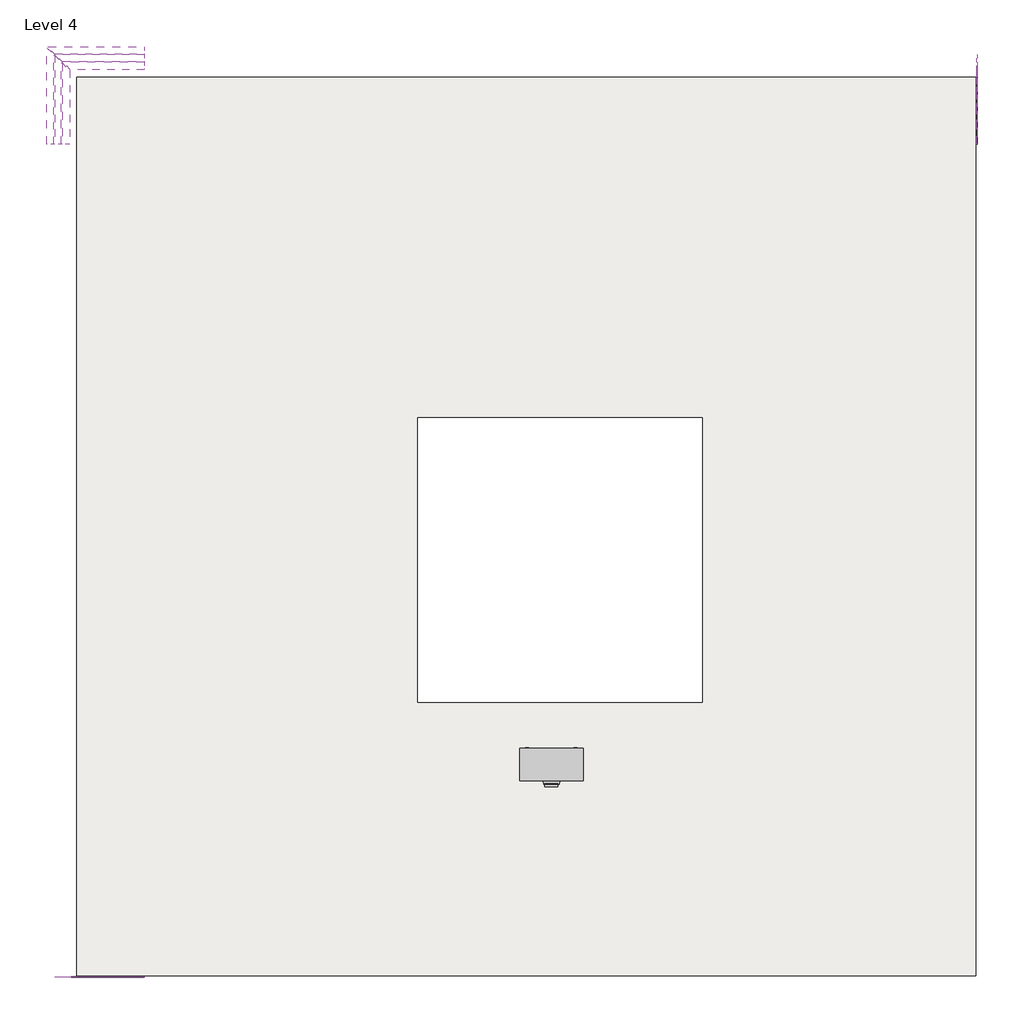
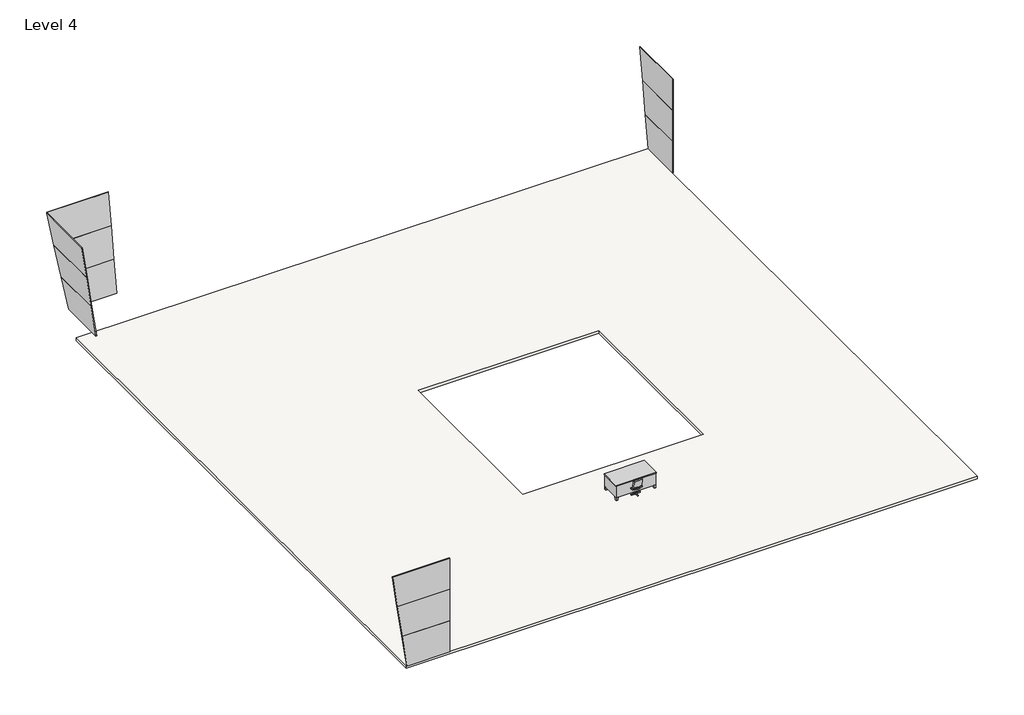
# One storey, incomplete: 12 plates, 2 furniture elements, 1 slab.
"""IFC4 building model written with IfcOpenShell, lengths in millimetres."""

from ifc_helpers import new_model, si_unit, frame, origin, place, context, project, spatial, polyline, outline, extrude, transform, mapped, element, save
from components import chair_desk_chair_desk_ccc35c8f, furniture_2fc54265, system_panel_glazed_a2d58803, system_panel_glazed_8fa230d7, system_panel_glazed_31825f39, system_panel_glazed_f17f3ffc, system_panel_glazed_5ee69f95, system_panel_glazed_140b35c1, system_panel_glazed_74d0b2fe, system_panel_glazed_c67652bb, system_panel_glazed_e95fbaad, system_panel_glazed_70978274, system_panel_glazed_2f9a95bf, system_panel_glazed_7634dc14

model = new_model("IFC4")

# Units and contexts
model_context = context("Model", 3, world=origin())
ifc_project = project(units=[si_unit("LENGTHUNIT", "METRE", prefix="MILLI")], contexts=[model_context])

# Site, building, storey
site = spatial("IfcSite", under=ifc_project)
building = spatial("IfcBuilding", under=site)
storey = spatial("IfcBuildingStorey", under=building, Name="Level 4", Elevation=13716.0)

# Furniture
placement = place(None, origin())
chair_desk_chair_desk_shape = chair_desk_chair_desk_ccc35c8f(model_context)
element("IfcFurniture", 1, ObjectType="Chair-Desk : Chair-Desk", at=placement, inside=storey, context=model_context, shape_type="MappedRepresentation", body=[
    mapped(chair_desk_chair_desk_shape, transform((-3928.2026957, -6947.9708988, 13716.0), x_axis=(1.0, 0.0, 0.0), y_axis=(0.0, 1.0, 0.0), z_axis=(0.0, 0.0, 1.0))),
])
furniture_shape = furniture_2fc54265(model_context)
element("IfcFurniture", 2, ObjectType="Desk : 72\" x 36\"", at=placement, inside=storey, context=model_context, shape_type="MappedRepresentation", body=[
    mapped(furniture_shape, transform((-4842.6026957, -6820.9708988, 13716.0), x_axis=(1.0, 0.0, 0.0), y_axis=(0.0, 1.0, 0.0), z_axis=(0.0, 0.0, 1.0))),
])

# Plates
system_panel_glazed_shape = system_panel_glazed_a2d58803(model_context)
element("IfcPlate", 3, ObjectType="System Panel : Glazed", at=placement, inside=storey, context=model_context, shape_type="MappedRepresentation", body=[
    mapped(system_panel_glazed_shape, transform((-17059.9521486, 13993.0826522, 15084.6521797), x_axis=(1.0, 0.0, 0.0), y_axis=(0.0, 0.9898065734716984, -0.1424182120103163), z_axis=(0.0, 0.1424182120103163, 0.9898065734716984))),
])
system_panel_glazed_2_shape = system_panel_glazed_8fa230d7(model_context)
element("IfcPlate", 4, ObjectType="System Panel : Glazed", at=placement, inside=storey, context=model_context, shape_type="MappedRepresentation", body=[
    mapped(system_panel_glazed_2_shape, transform((-17168.4748261, 14210.1280073, 16593.1173977), x_axis=(1.0, 0.0, 0.0), y_axis=(0.0, 0.9898065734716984, -0.1424182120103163), z_axis=(0.0, 0.1424182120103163, 0.9898065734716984))),
])
system_panel_glazed_3_shape = system_panel_glazed_31825f39(model_context)
element("IfcPlate", 5, ObjectType="System Panel : Glazed", at=placement, inside=storey, context=model_context, shape_type="MappedRepresentation", body=[
    mapped(system_panel_glazed_3_shape, transform((-17276.9975037, 14427.1733624, 18101.5826157), x_axis=(1.0, 0.0, 0.0), y_axis=(0.0, 0.9898065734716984, -0.1424182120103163), z_axis=(0.0, 0.1424182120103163, 0.9898065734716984))),
])
system_panel_glazed_4_shape = system_panel_glazed_f17f3ffc(model_context)
element("IfcPlate", 6, ObjectType="System Panel : Glazed", at=placement, inside=storey, context=model_context, shape_type="MappedRepresentation", body=[
    mapped(system_panel_glazed_4_shape, transform((-18036.6562467, 13016.3785543, 15084.6521797), x_axis=(0.0, 1.0, 0.0), y_axis=(-0.9898065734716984, 0.0, -0.1424182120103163), z_axis=(-0.1424182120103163, 0.0, 0.9898065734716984))),
])
system_panel_glazed_5_shape = system_panel_glazed_5ee69f95(model_context)
element("IfcPlate", 7, ObjectType="System Panel : Glazed", at=placement, inside=storey, context=model_context, shape_type="MappedRepresentation", body=[
    mapped(system_panel_glazed_5_shape, transform((-18253.7016018, 13124.9012318, 16593.1173977), x_axis=(0.0, 1.0, 0.0), y_axis=(-0.9898065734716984, 0.0, -0.1424182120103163), z_axis=(-0.1424182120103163, 0.0, 0.9898065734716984))),
])
system_panel_glazed_6_shape = system_panel_glazed_140b35c1(model_context)
element("IfcPlate", 8, ObjectType="System Panel : Glazed", at=placement, inside=storey, context=model_context, shape_type="MappedRepresentation", body=[
    mapped(system_panel_glazed_6_shape, transform((-18470.7469569, 13233.4239094, 18101.5826157), x_axis=(0.0, 1.0, 0.0), y_axis=(-0.9898065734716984, 0.0, -0.1424182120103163), z_axis=(-0.1424182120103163, 0.0, 0.9898065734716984))),
])
system_panel_glazed_7_shape = system_panel_glazed_74d0b2fe(model_context)
element("IfcPlate", 9, ObjectType="System Panel : Glazed", at=placement, inside=storey, context=model_context, shape_type="MappedRepresentation", body=[
    mapped(system_panel_glazed_7_shape, transform((8517.7973043, 12919.0319787, 13716.0), x_axis=(0.0, -1.0, 0.0), y_axis=(1.0, 0.0, 0.0), z_axis=(0.0, 0.0, 1.0))),
])
system_panel_glazed_8_shape = system_panel_glazed_c67652bb(model_context)
element("IfcPlate", 10, ObjectType="System Panel : Glazed", at=placement, inside=storey, context=model_context, shape_type="MappedRepresentation", body=[
    mapped(system_panel_glazed_8_shape, transform((8517.7973043, 13028.6722665, 15240.0), x_axis=(0.0, -1.0, 0.0), y_axis=(1.0, 0.0, 0.0), z_axis=(0.0, 0.0, 1.0))),
])
system_panel_glazed_9_shape = system_panel_glazed_e95fbaad(model_context)
element("IfcPlate", 11, ObjectType="System Panel : Glazed", at=placement, inside=storey, context=model_context, shape_type="MappedRepresentation", body=[
    mapped(system_panel_glazed_9_shape, transform((8517.7973043, 13138.3125542, 16764.0), x_axis=(0.0, -1.0, 0.0), y_axis=(1.0, 0.0, 0.0), z_axis=(0.0, 0.0, 1.0))),
])
system_panel_glazed_10_shape = system_panel_glazed_70978274(model_context)
element("IfcPlate", 12, ObjectType="System Panel : Glazed", at=placement, inside=storey, context=model_context, shape_type="MappedRepresentation", body=[
    mapped(system_panel_glazed_10_shape, transform((-16962.6055734, -12561.3708988, 13716.0), x_axis=(-1.0, 0.0, 0.0), y_axis=(0.0, -1.0, 0.0), z_axis=(0.0, 0.0, 1.0))),
])
system_panel_glazed_11_shape = system_panel_glazed_2f9a95bf(model_context)
element("IfcPlate", 13, ObjectType="System Panel : Glazed", at=placement, inside=storey, context=model_context, shape_type="MappedRepresentation", body=[
    mapped(system_panel_glazed_11_shape, transform((-17072.2458612, -12561.3708988, 15240.0), x_axis=(-1.0, 0.0, 0.0), y_axis=(0.0, -1.0, 0.0), z_axis=(0.0, 0.0, 1.0))),
])
system_panel_glazed_12_shape = system_panel_glazed_7634dc14(model_context)
element("IfcPlate", 14, ObjectType="System Panel : Glazed", at=placement, inside=storey, context=model_context, shape_type="MappedRepresentation", body=[
    mapped(system_panel_glazed_12_shape, transform((-17181.8861489, -12561.3708988, 16764.0), x_axis=(-1.0, 0.0, 0.0), y_axis=(0.0, -1.0, 0.0), z_axis=(0.0, 0.0, 1.0))),
])

# Slab
element("IfcSlab", 15, ObjectType="3\" LW Concrete on 2\" Metal Deck", at=placement, inside=storey, context=model_context, shape_type="SweptSolid", body=[
    extrude(outline(polyline([(-17839.7278755, -12561.3708988), (-17839.7278755, 13796.154281), (8517.7973043, 13796.154281), (8517.7973043, -12561.3708988), (-17839.7278755, -12561.3708988)]), holes=[polyline([(-7844.5651957, 3800.9916012), (-7844.5651957, -4539.7333988), (496.1598043, -4539.7333988), (496.1598043, 3800.9916012), (-7844.5651957, 3800.9916012)])]), frame((0.0, 0.0, 13589.0), z_axis=(0.0, 0.0, 1.0), x_axis=(1.0, 0.0, 0.0)), (0.0, 0.0, 1.0), 127.0),
])

save(model, "model.ifc")
